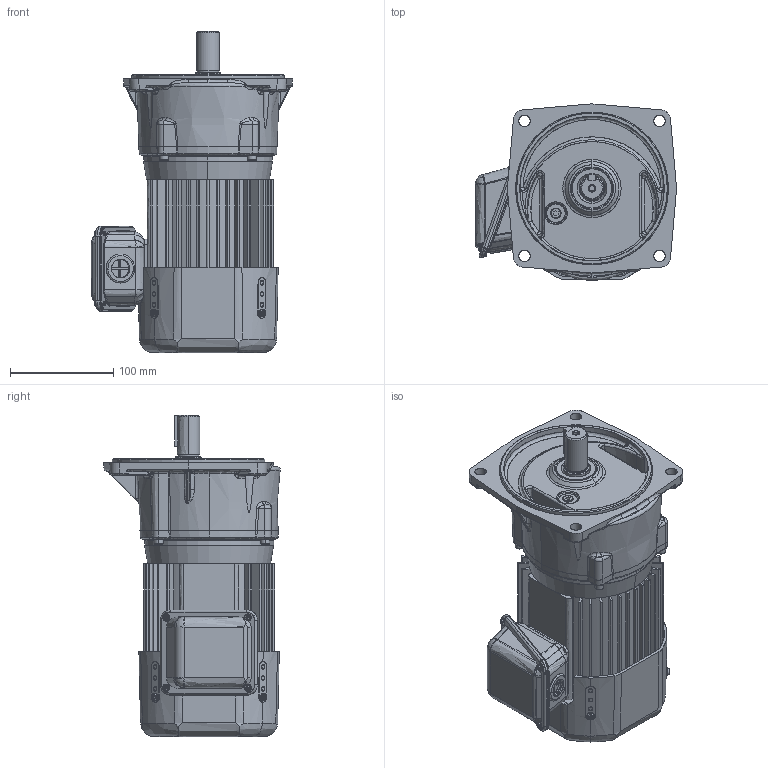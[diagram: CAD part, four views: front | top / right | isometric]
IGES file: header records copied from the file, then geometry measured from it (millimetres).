
Start section: SolidWorks IGES file using analytic representation for surfaces
Global section: file name: \\100.100.100.8\1_共有作業フォルダ\1-5_３Ｄデータ\solidworks\personal-folder\H.Nagayama\SGP1外形\P1(3D)\igs\TMFB2-02-(40~80).IGS; native system: SolidWorks 2018; preprocessor: SolidWorks 2018; author: sigma-giken; date: 200508.142204; units: millimetre
Bounding box: 195 x 170.86 x 311.6 mm (x, y, z)
Surface area: 428333.2 mm2 (no closed solid volume)
Topology: 0 solids, 0 shells, 1776 faces, 22914 edges, 22890 vertices
Faces by surface type: bspline 961, revolution 815
